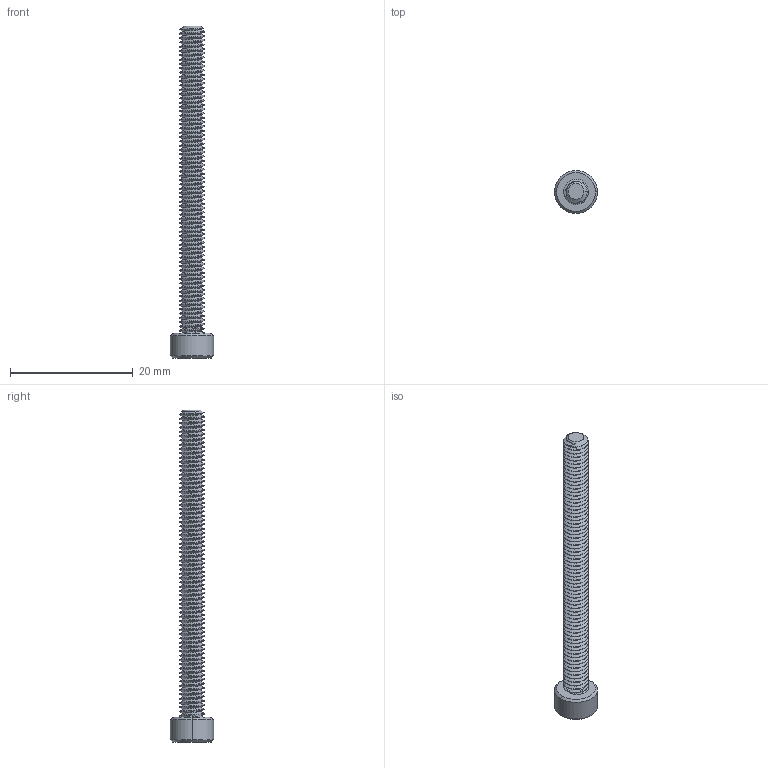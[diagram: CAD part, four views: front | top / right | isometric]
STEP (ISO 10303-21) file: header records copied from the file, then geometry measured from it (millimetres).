
FILE_DESCRIPTION (( 'STEP AP203' ), '1' );
FILE_NAME ('2800-0004-0050.STEP', '2017-04-04T18:16:25', ( '' ), ( '' ), 'SwSTEP 2.0', 'SolidWorks 2016', '' );
FILE_SCHEMA (( 'CONFIG_CONTROL_DESIGN' ));
Length unit declared in the file: millimetre
Products named in the file (1): 2800-0004-0050
Bounding box: 7 x 7 x 54 mm (x, y, z)
Volume: 630.3 mm3; surface area: 1148.1 mm2
Topology: 1 solids, 1 shells, 314 faces, 913 edges, 603 vertices
Faces by surface type: cylinder 289, cone 13, plane 10, bspline 2
Entity records: 16701 total; most frequent: CARTESIAN_POINT 10063, ORIENTED_EDGE 1826, DIRECTION 976, EDGE_CURVE 913, VERTEX_POINT 603, AXIS2_PLACEMENT_3D 335, EDGE_LOOP 316, FACE_OUTER_BOUND 314
